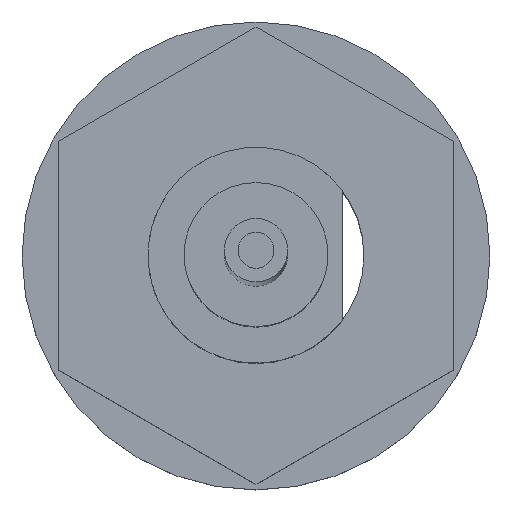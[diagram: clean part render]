
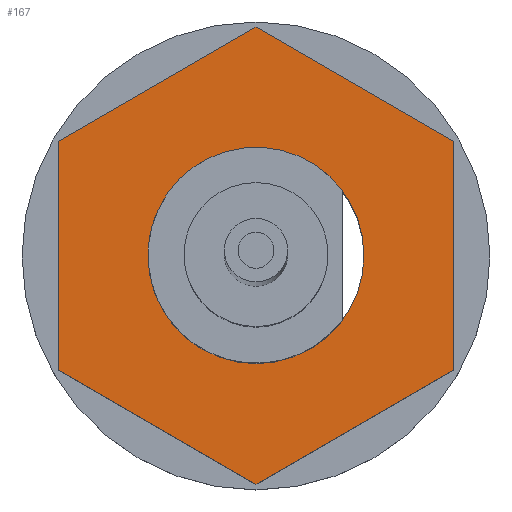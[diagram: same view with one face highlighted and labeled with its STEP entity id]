
A CAD part, top view. The second image highlights one B-rep face of the part: STEP entity #167.
In plain terms, the highlighted planar face has unit normal (0, 0, 1) as drawn and (-1, 0, 0) by its records, which use the part's own axes.
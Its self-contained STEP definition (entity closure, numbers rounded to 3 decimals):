
#139 = ORIENTED_EDGE ( 'NONE', *, *, #160, .T. ) ;
#140 = VERTEX_POINT ( 'NONE', #462 ) ;
#154 = ORIENTED_EDGE ( 'NONE', *, *, #156, .T. ) ;
#155 = VERTEX_POINT ( 'NONE', #503 ) ;
#156 = EDGE_CURVE ( 'NONE', #155, #140, #502, .T. ) ;
#157 = VERTEX_POINT ( 'NONE', #498 ) ;
#158 = ORIENTED_EDGE ( 'NONE', *, *, #159, .T. ) ;
#159 = EDGE_CURVE ( 'NONE', #157, #155, #496, .T. ) ;
#160 = EDGE_CURVE ( 'NONE', #161, #162, #559, .T. ) ;
#161 = VERTEX_POINT ( 'NONE', #555 ) ;
#162 = VERTEX_POINT ( 'NONE', #554 ) ;
#163 = ORIENTED_EDGE ( 'NONE', *, *, #164, .T. ) ;
#164 = EDGE_CURVE ( 'NONE', #162, #157, #553, .T. ) ;
#165 = EDGE_CURVE ( 'NONE', #202, #161, #549, .T. ) ;
#166 = ORIENTED_EDGE ( 'NONE', *, *, #1220, .F. ) ;
#167 = ADVANCED_FACE ( 'NONE', ( #545, #544 ), #543, .F. ) ;
#200 = ORIENTED_EDGE ( 'NONE', *, *, #165, .T. ) ;
#201 = EDGE_CURVE ( 'NONE', #140, #202, #609, .T. ) ;
#202 = VERTEX_POINT ( 'NONE', #605 ) ;
#206 = EDGE_LOOP ( 'NONE', ( #139, #163, #158, #154, #207, #200 ) ) ;
#207 = ORIENTED_EDGE ( 'NONE', *, *, #201, .T. ) ;
#214 = EDGE_LOOP ( 'NONE', ( #166, #217 ) ) ;
#217 = ORIENTED_EDGE ( 'NONE', *, *, #224, .F. ) ;
#224 = EDGE_CURVE ( 'NONE', #241, #1217, #641, .T. ) ;
#241 = VERTEX_POINT ( 'NONE', #677 ) ;
#462 = CARTESIAN_POINT ( 'NONE',  ( 43.6, -3.175, 0. ) ) ;
#493 = DIRECTION ( 'NONE',  ( 0., -1., 0. ) ) ;
#494 = VECTOR ( 'NONE', #493, 1000. ) ;
#495 = CARTESIAN_POINT ( 'NONE',  ( 43.6, 1.588, -2.75 ) ) ;
#496 = LINE ( 'NONE', #495, #494 ) ;
#498 = CARTESIAN_POINT ( 'NONE',  ( 43.6, 1.588, -2.75 ) ) ;
#499 = DIRECTION ( 'NONE',  ( 0., -0.5, 0.866 ) ) ;
#500 = VECTOR ( 'NONE', #499, 1000. ) ;
#501 = CARTESIAN_POINT ( 'NONE',  ( 43.6, -1.588, -2.75 ) ) ;
#502 = LINE ( 'NONE', #501, #500 ) ;
#503 = CARTESIAN_POINT ( 'NONE',  ( 43.6, -1.588, -2.75 ) ) ;
#539 = DIRECTION ( 'NONE',  ( 0., 1., 0. ) ) ;
#540 = DIRECTION ( 'NONE',  ( 1., 0., 0. ) ) ;
#541 = CARTESIAN_POINT ( 'NONE',  ( 43.6, 0., 5.5 ) ) ;
#542 = AXIS2_PLACEMENT_3D ( 'NONE', #541, #540, #539 ) ;
#543 = PLANE ( 'NONE',  #542 ) ;
#544 = FACE_BOUND ( 'NONE', #214, .T. ) ;
#545 = FACE_OUTER_BOUND ( 'NONE', #206, .T. ) ;
#546 = DIRECTION ( 'NONE',  ( 0., 1., 0. ) ) ;
#547 = VECTOR ( 'NONE', #546, 1000. ) ;
#548 = CARTESIAN_POINT ( 'NONE',  ( 43.6, -1.588, 2.75 ) ) ;
#549 = LINE ( 'NONE', #548, #547 ) ;
#550 = DIRECTION ( 'NONE',  ( 0., -0.5, -0.866 ) ) ;
#551 = VECTOR ( 'NONE', #550, 1000. ) ;
#552 = CARTESIAN_POINT ( 'NONE',  ( 43.6, 3.175, 0. ) ) ;
#553 = LINE ( 'NONE', #552, #551 ) ;
#554 = CARTESIAN_POINT ( 'NONE',  ( 43.6, 3.175, 0. ) ) ;
#555 = CARTESIAN_POINT ( 'NONE',  ( 43.6, 1.588, 2.75 ) ) ;
#556 = DIRECTION ( 'NONE',  ( 0., 0.5, -0.866 ) ) ;
#557 = VECTOR ( 'NONE', #556, 1000. ) ;
#558 = CARTESIAN_POINT ( 'NONE',  ( 43.6, 1.588, 2.75 ) ) ;
#559 = LINE ( 'NONE', #558, #557 ) ;
#605 = CARTESIAN_POINT ( 'NONE',  ( 43.6, -1.588, 2.75 ) ) ;
#606 = DIRECTION ( 'NONE',  ( 0., 0.5, 0.866 ) ) ;
#607 = VECTOR ( 'NONE', #606, 1000. ) ;
#608 = CARTESIAN_POINT ( 'NONE',  ( 43.6, -3.175, 0. ) ) ;
#609 = LINE ( 'NONE', #608, #607 ) ;
#637 = DIRECTION ( 'NONE',  ( 0., -1., 0. ) ) ;
#638 = DIRECTION ( 'NONE',  ( -1., 0., 0. ) ) ;
#639 = CARTESIAN_POINT ( 'NONE',  ( 43.6, 0., 0. ) ) ;
#640 = AXIS2_PLACEMENT_3D ( 'NONE', #639, #638, #637 ) ;
#641 = CIRCLE ( 'NONE', #640, 1.5 ) ;
#677 = CARTESIAN_POINT ( 'NONE',  ( 43.6, -1.5, 0. ) ) ;
#967 = DIRECTION ( 'NONE',  ( 0., -1., 0. ) ) ;
#968 = DIRECTION ( 'NONE',  ( -1., 0., 0. ) ) ;
#969 = CARTESIAN_POINT ( 'NONE',  ( 43.6, 0., 0. ) ) ;
#970 = AXIS2_PLACEMENT_3D ( 'NONE', #969, #968, #967 ) ;
#971 = CIRCLE ( 'NONE', #970, 1.5 ) ;
#972 = CARTESIAN_POINT ( 'NONE',  ( 43.6, 1.5, 0. ) ) ;
#1217 = VERTEX_POINT ( 'NONE', #972 ) ;
#1220 = EDGE_CURVE ( 'NONE', #1217, #241, #971, .T. ) ;
